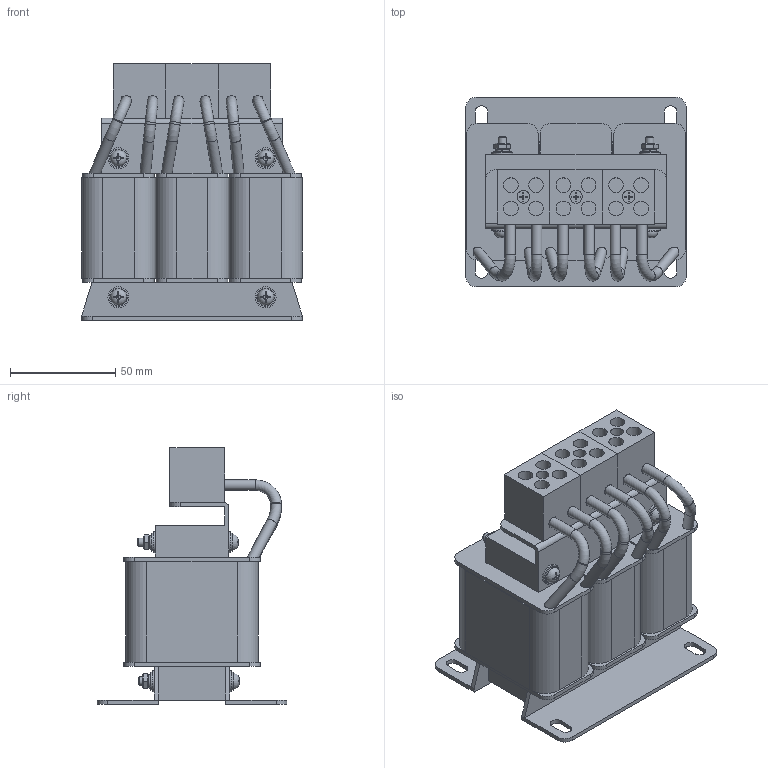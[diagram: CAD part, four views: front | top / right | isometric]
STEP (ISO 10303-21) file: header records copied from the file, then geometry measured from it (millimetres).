
FILE_DESCRIPTION(('STEP AP203'), '1');
FILE_NAME('栖闉罻 _ IMF-7.5_17-4', '', ('UNSPECIFIED'), ('UNSPECIFIED'), 'ASCON STEP Converter 1.6', 'ASCON Math Kernel', '');
FILE_SCHEMA(('CONFIG_CONTROL_DESIGN'));
Length unit declared in the file: millimetre
Products named in the file (13): IMF-7.5_17-4
Assembly tree (45 placements, depth 2):
  IMF-7.5_17-4
    IMF-7.5_17-4
    IMF-7.5_17-4  x2
    IMF-7.5_17-4  x6
    IMF-7.5_17-4  x3
    IMF-7.5_17-4
    IMF-7.5_17-4  x3
    IMF-7.5_17-4  x8
    IMF-7.5_17-4  x8
    IMF-7.5_17-4  x4
    IMF-7.5_17-4  x4
    IMF-7.5_17-4  x4
    IMF-7.5_17-4
Bounding box: 105 x 90 x 122 mm (x, y, z)
Volume: 497919.7 mm3; surface area: 141668.5 mm2
Topology: 50 solids, 50 shells, 609 faces, 1355 edges, 874 vertices
Faces by surface type: plane 440, cylinder 133, torus 24, cone 12
Full cylindrical faces by diameter (mm): 4 x32, 5 x18, 6 x3, 7 x12, 8.6 x8, 10 x8
Entity records: 7580 total; most frequent: CARTESIAN_POINT 1414, DIRECTION 1030, ORIENTED_EDGE 842, EDGE_CURVE 421, AXIS2_PLACEMENT_3D 372, VERTEX_POINT 301, EDGE_LOOP 300, LINE 286
